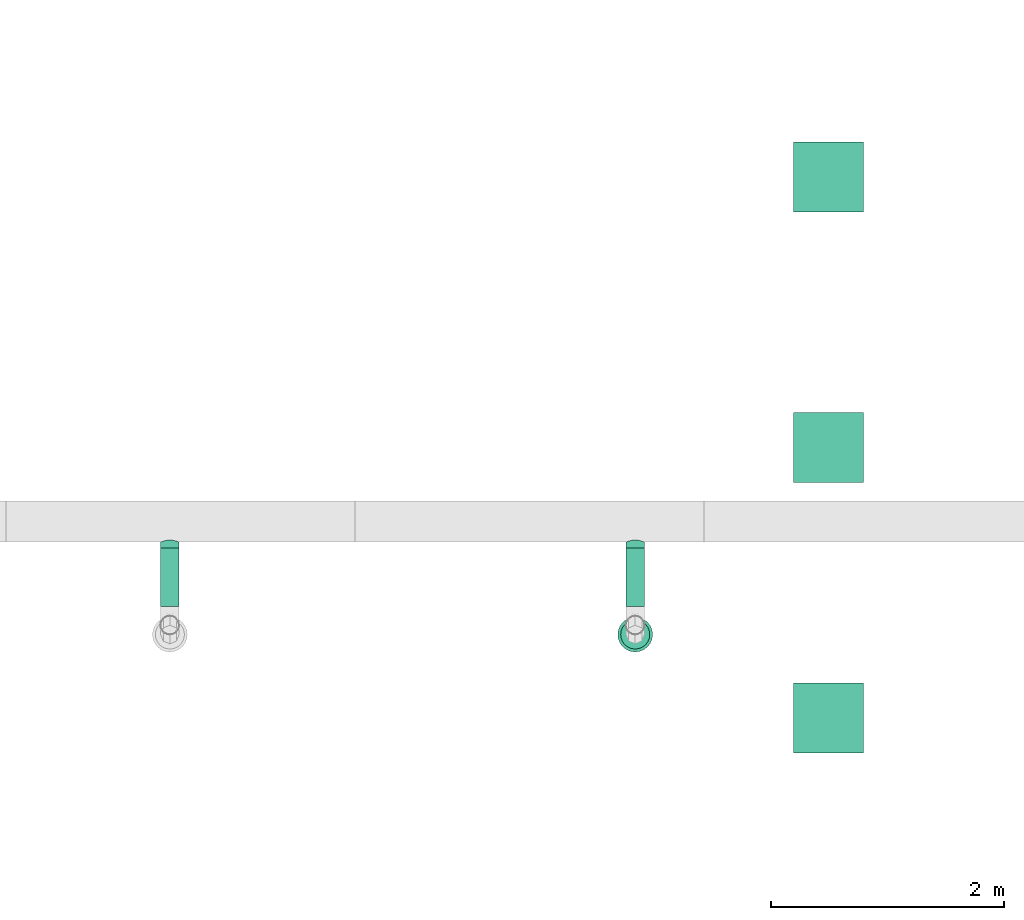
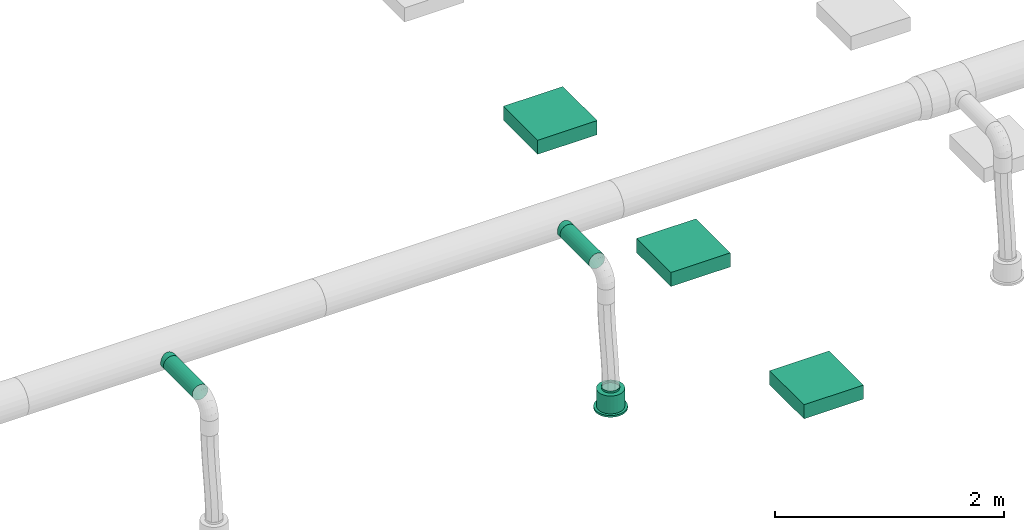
# One storey, part 57 of 374: 4 flow segments, 3 distribution elements, 1 flow terminal.
"""IFC2X3 building model written with IfcOpenShell, lengths in metres."""

import ifcopenshell
import ifcopenshell.guid

model = None  # the IFC model being written
_history = None  # IfcOwnerHistory: only IFC2X3 demands one
_inside = {}  # id of a spatial element -> (the spatial element, [elements in it])
_under = {}  # id of a project, library or spatial element -> (it, [spatial elements below it])
_declared = {}  # id of a project -> (the project, [libraries it declares])
_typed = {}  # id of a type object -> (the type object, [elements of that type])
_made_of = {}  # id of a material, layer set ... -> (it, [elements and type objects made of it])


def new_model(schema):
    """Start an empty IFC model of exactly this schema.

    Asked for "IFC4X3", IfcOpenShell would pick the latest addendum, in which some entities
    have other attributes; the version numbers below select the first issue.
    IFC2X3 requires an IfcOwnerHistory on every rooted entity: one is made here for all.
    """
    global model, _history
    if schema == "IFC4X3":
        model = ifcopenshell.file(schema_version=(4, 3, 0, 0))
    else:
        model = ifcopenshell.file(schema=schema)
    _inside.clear()
    _under.clear()
    _declared.clear()
    _typed.clear()
    _made_of.clear()
    _history = None
    if model.schema == "IFC2X3":
        org = make("IfcOrganization", Name="unknown")
        user = make(
            "IfcPersonAndOrganization",
            ThePerson=make("IfcPerson", FamilyName="unknown"),
            TheOrganization=org,
        )
        app = make(
            "IfcApplication",
            ApplicationDeveloper=org,
            Version="unknown",
            ApplicationFullName="unknown",
            ApplicationIdentifier="unknown",
        )
        _history = make(
            "IfcOwnerHistory",
            OwningUser=user,
            OwningApplication=app,
            ChangeAction="ADDED",
            CreationDate=0,
        )
    return model


def make(cls, **values):
    """One entity of the class cls with the attributes given. An attribute that is None is left unset."""
    return model.create_entity(
        cls, **{name: value for name, value in values.items() if value is not None}
    )


def rooted(cls, **values):
    """An entity with a GlobalId (a new one), such as an element, a storey or a relation."""
    return make(cls, GlobalId=ifcopenshell.guid.new(), OwnerHistory=_history, **values)


def si_unit(unit_type, name, prefix=None):
    """IfcSIUnit, for example si_unit("LENGTHUNIT", "METRE", prefix="MILLI")."""
    return make("IfcSIUnit", UnitType=unit_type, Prefix=prefix, Name=name)


def assignment(units):
    """IfcUnitAssignment: the units of a project."""
    return None if units is None else make("IfcUnitAssignment", Units=units)


def point(xyz):
    """IfcCartesianPoint."""
    return None if xyz is None else make("IfcCartesianPoint", Coordinates=xyz)


def direction(xyz):
    """IfcDirection."""
    return None if xyz is None else make("IfcDirection", DirectionRatios=xyz)


def frame(location, z_axis=None, x_axis=None):
    """IfcAxis2Placement3D, a coordinate frame: its origin and axes. An axis left out is left unset."""
    return make(
        "IfcAxis2Placement3D",
        Location=point(location),
        Axis=direction(z_axis),
        RefDirection=direction(x_axis),
    )


def frame_2d(location, x_axis=None):
    """IfcAxis2Placement2D, a coordinate frame in the plane: its origin and x axis."""
    return make(
        "IfcAxis2Placement2D", Location=point(location), RefDirection=direction(x_axis)
    )


def origin():
    """The frame at (0, 0, 0) with its axes left unset."""
    return frame((0.0, 0.0, 0.0))


def place(relative_to, where):
    """IfcLocalPlacement: puts the frame where relative to a parent placement (None: the world)."""
    return make(
        "IfcLocalPlacement", PlacementRelTo=relative_to, RelativePlacement=where
    )


def context(
    kind, dimensions, precision=None, world=None, true_north=None, identifier=None
):
    """IfcGeometricRepresentationContext, for example the 3D "Model" context."""
    return make(
        "IfcGeometricRepresentationContext",
        ContextIdentifier=identifier,
        ContextType=kind,
        CoordinateSpaceDimension=dimensions,
        Precision=precision,
        WorldCoordinateSystem=world,
        TrueNorth=true_north,
    )


def subcontext(parent, identifier, kind, view, scale=None):
    """IfcGeometricRepresentationSubContext, for example "Body" below "Model"."""
    return make(
        "IfcGeometricRepresentationSubContext",
        ContextIdentifier=identifier,
        ContextType=kind,
        ParentContext=parent,
        TargetScale=scale,
        TargetView=view,
    )


def project(units=None, contexts=None):
    """IfcProject with its units and contexts."""
    return rooted(
        "IfcProject",
        Name="project",
        RepresentationContexts=contexts,
        UnitsInContext=assignment(units),
    )


def spatial(cls, under=None, at=None, **own):
    """A site, building, storey or space (cls), placed at a placement, below another one or the project."""
    s = rooted(cls, ObjectPlacement=at, **own)
    if under is not None:
        _under.setdefault(under.id(), (under, []))[1].append(s)
    return s


def profile(cls, at=None, kind="AREA", **sizes):
    """A parametric profile (cls). Its sizes go by their IFC names, for example OverallWidth=200.0."""
    return make(cls, ProfileType=kind, Position=at, **sizes)


def rectangle(**sizes):
    """IfcRectangleProfileDef."""
    return profile("IfcRectangleProfileDef", **sizes)


def extrude(swept, where, along, depth):
    """IfcExtrudedAreaSolid: the profile swept, set in the frame where, extruded along a direction by depth."""
    return make(
        "IfcExtrudedAreaSolid",
        SweptArea=swept,
        Position=where,
        ExtrudedDirection=direction(along),
        Depth=depth,
    )


def faces_of(points, faces, orient=None, outer=None):
    """IfcFace entities. A face is a list of loops; a loop is a list of indices into points, from 0.

    orient and outer hold one flag for each loop. By default every Orientation is true, the
    first loop of a face is its IfcFaceOuterBound and the others are IfcFaceBound.
    """
    made = []
    for i, loops in enumerate(faces):
        bounds = []
        for j, loop in enumerate(loops):
            is_outer = j == 0 if outer is None else outer[i][j]
            bounds.append(
                make(
                    "IfcFaceOuterBound" if is_outer else "IfcFaceBound",
                    Bound=make("IfcPolyLoop", Polygon=[points[k] for k in loop]),
                    Orientation=True if orient is None else orient[i][j],
                )
            )
        made.append(make("IfcFace", Bounds=bounds))
    return made


def open_shell(faces, orient=None, outer=None):
    """The faces of one IfcOpenShell. surface_model builds it on its shared points."""
    return ("IfcOpenShell", faces, orient, outer)


def surface_model(cls, points, shells):
    """IfcFaceBasedSurfaceModel or IfcShellBasedSurfaceModel (cls): surfaces that need not close."""
    shared = [point(p) for p in points]
    made = [make(c, CfsFaces=faces_of(shared, fs, o, b)) for c, fs, o, b in shells]
    if cls == "IfcFaceBasedSurfaceModel":
        return make(cls, FbsmFaces=made)
    return make(cls, SbsmBoundary=made)


def shape(context_of_items, identifier, shape_type, items):
    """IfcShapeRepresentation: the items that make up one representation, for example the "Body"."""
    return make(
        "IfcShapeRepresentation",
        ContextOfItems=context_of_items,
        RepresentationIdentifier=identifier,
        RepresentationType=shape_type,
        Items=items,
    )


def source(mapping_origin, context_of_items, identifier, shape_type, items):
    """IfcRepresentationMap: a shape defined once, which mapped items show again and again."""
    return make(
        "IfcRepresentationMap",
        MappingOrigin=mapping_origin,
        MappedRepresentation=shape(context_of_items, identifier, shape_type, items),
    )


def transform(
    local_origin,
    x_axis=None,
    y_axis=None,
    z_axis=None,
    scale=None,
    scale2=None,
    scale3=None,
    uniform=True,
):
    """IfcCartesianTransformationOperator3D, or its non-uniform kind. x_axis, y_axis, z_axis: its Axis1, 2, 3."""
    if uniform:
        return make(
            "IfcCartesianTransformationOperator3D",
            Axis1=direction(x_axis),
            Axis2=direction(y_axis),
            LocalOrigin=point(local_origin),
            Scale=scale,
            Axis3=direction(z_axis),
        )
    return make(
        "IfcCartesianTransformationOperator3DnonUniform",
        Axis1=direction(x_axis),
        Axis2=direction(y_axis),
        LocalOrigin=point(local_origin),
        Scale=scale,
        Axis3=direction(z_axis),
        Scale2=scale2,
        Scale3=scale3,
    )


def mapped(mapping_source, mapping_target):
    """IfcMappedItem: shows the shape of a source again, moved by a transform."""
    return make(
        "IfcMappedItem", MappingSource=mapping_source, MappingTarget=mapping_target
    )


def made_of(thing, what):
    """Note that an element or type object is made of a material, layer set ...; save() writes the relation."""
    if what is not None:
        _made_of.setdefault(what.id(), (what, []))[1].append(thing)
    return thing


def element(
    cls,
    number,
    at=None,
    inside=None,
    cuts=None,
    type_object=None,
    material=None,
    context=None,
    identifier="Body",
    shape_type=None,
    held_by="IfcProductDefinitionShape",
    body=None,
    shapes=None,
    **own,
):
    """One element of the class cls, such as IfcWall. Its Tag is "e" and its number.

    at: its placement. inside: the storey or other place that contains it. cuts: it is an
    opening in that element (IfcRelVoidsElement). A single representation is given by context,
    identifier, shape_type and body (its items); several are given by shapes. held_by: the class
    of the entity that holds the representations. save() writes the other relations.
    """
    e = rooted(cls, Tag="e%d" % number, ObjectPlacement=at, **own)
    if body is not None:
        shapes = [shape(context, identifier, shape_type, body)]
    if shapes is not None:
        e.Representation = make(held_by, Representations=shapes)
    if inside is not None:
        _inside.setdefault(inside.id(), (inside, []))[1].append(e)
    if cuts is not None:
        rooted(
            "IfcRelVoidsElement", RelatingBuildingElement=cuts, RelatedOpeningElement=e
        )
    if type_object is not None:
        _typed.setdefault(type_object.id(), (type_object, []))[1].append(e)
    return made_of(e, material)


def aggregate(whole, parts):
    """IfcRelAggregates: a whole, such as a stair, and the parts it consists of."""
    return rooted("IfcRelAggregates", RelatingObject=whole, RelatedObjects=parts)


def save(model, path):
    """Write the relations noted so far, then the file.

    IfcRelAggregates (storeys below a building ...), IfcRelContainedInSpatialStructure (elements
    in a storey), IfcRelDefinesByType, IfcRelAssociatesMaterial and IfcRelDeclares: one each for
    every whole, place, type object, material and project.
    """
    for whole, parts in _under.values():
        aggregate(whole, parts)
    for where, things in _inside.values():
        rooted(
            "IfcRelContainedInSpatialStructure",
            RelatedElements=things,
            RelatingStructure=where,
        )
    for kind, things in _typed.values():
        rooted("IfcRelDefinesByType", RelatedObjects=things, RelatingType=kind)
    for what, things in _made_of.values():
        rooted("IfcRelAssociatesMaterial", RelatedObjects=things, RelatingMaterial=what)
    for by, libraries in _declared.values():
        rooted("IfcRelDeclares", RelatingContext=by, RelatedDefinitions=libraries)
    model.write(path)


model = new_model("IFC2X3")

# Units and contexts
model_context = context("Model", 3, precision=1e-05, world=origin(), true_north=direction((-0.4480736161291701, 0.8939966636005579)))
body_context = subcontext(model_context, "Body", "Model", "MODEL_VIEW")
ifc_project = project(units=[si_unit("LENGTHUNIT", "METRE"), si_unit("AREAUNIT", "SQUARE_METRE"), si_unit("VOLUMEUNIT", "CUBIC_METRE"), si_unit("PLANEANGLEUNIT", "RADIAN"), si_unit("THERMODYNAMICTEMPERATUREUNIT", "KELVIN"), si_unit("MASSUNIT", "GRAM", prefix="KILO"), si_unit("TIMEUNIT", "SECOND")], contexts=[model_context])

# Site, building, storey
site_placement = place(None, origin())
site = spatial("IfcSite", under=ifc_project, at=site_placement, Name="Site 1", CompositionType="ELEMENT")
building_placement = place(site_placement, origin())
building = spatial("IfcBuilding", under=site, at=building_placement, Name="Undefined", CompositionType="ELEMENT")
storey_placement = place(building_placement, origin())
storey = spatial("IfcBuildingStorey", under=building, at=storey_placement, Name="Rez de chauss\x8ee", CompositionType="ELEMENT", Elevation=0.0)

# Flow terminal
shared_shape_1 = source(origin(), body_context, "Body", "SurfaceModel", [
    surface_model("IfcFaceBasedSurfaceModel", [(0.0, 0.0, 0.0), (0.03915785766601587, 0.0, 0.0), (0.03915785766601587, 0.020000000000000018, 0.0), (3.552713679e-15, 0.020000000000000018, 0.0), (0.07698144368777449, 0.0, -0.010134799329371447), (0.07698144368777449, 0.020000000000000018, -0.010134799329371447), (0.11089314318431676, 0.0, -0.02971372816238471), (0.11089314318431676, 0.020000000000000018, -0.02971372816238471), (0.13858192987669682, 0.0, -0.05740251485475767), (0.13858192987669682, 0.020000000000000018, -0.05740251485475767), (0.15816085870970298, 0.0, -0.09131421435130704), (0.15816085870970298, 0.020000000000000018, -0.09131421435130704), (0.16829565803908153, 0.0, -0.12913780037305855), (0.16829565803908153, 0.020000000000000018, -0.12913780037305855), (0.16829565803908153, 0.0, -0.16829565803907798), (0.16829565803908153, 0.020000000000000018, -0.16829565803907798), (0.15816085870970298, 0.0, -0.20611924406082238), (0.15816085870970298, 0.020000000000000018, -0.20611924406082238), (0.13858192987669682, 0.0, -0.24003094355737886), (0.13858192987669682, 0.020000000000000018, -0.24003094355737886), (0.11089314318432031, 0.0, -0.2677197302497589), (0.11089314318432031, 0.020000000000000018, -0.2677197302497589), (0.07698144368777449, 0.0, -0.2872986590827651), (0.07698144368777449, 0.020000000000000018, -0.2872986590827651), (0.039157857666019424, 0.0, -0.29743345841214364), (0.039157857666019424, 0.020000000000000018, -0.29743345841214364), (3.552713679e-15, 0.0, -0.29743345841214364), (3.552713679e-15, 0.020000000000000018, -0.29743345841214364), (-0.03782358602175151, 0.0, -0.2872986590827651), (-0.03782358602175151, 0.020000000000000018, -0.2872986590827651), (-0.07173528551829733, 0.0, -0.2677197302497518), (-0.07173528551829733, 0.020000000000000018, -0.2677197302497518), (-0.0994240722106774, 0.0, -0.24003094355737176), (-0.0994240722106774, 0.020000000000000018, -0.24003094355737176), (-0.11900300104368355, 0.0, -0.2061192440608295), (-0.11900300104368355, 0.020000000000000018, -0.2061192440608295), (-0.1291378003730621, 0.0, -0.16829565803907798), (-0.1291378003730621, 0.020000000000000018, -0.16829565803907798), (-0.1291378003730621, 0.0, -0.12913780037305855), (-0.1291378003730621, 0.020000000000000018, -0.12913780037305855), (-0.11900300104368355, 0.0, -0.09131421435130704), (-0.11900300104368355, 0.020000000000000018, -0.09131421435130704), (-0.0994240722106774, 0.0, -0.05740251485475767), (-0.0994240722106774, 0.020000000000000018, -0.05740251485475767), (-0.07173528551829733, 0.0, -0.029713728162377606), (-0.07173528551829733, 0.020000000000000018, -0.029713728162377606), (-0.03782358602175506, 0.0, -0.010134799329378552), (-0.03782358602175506, 0.020000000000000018, -0.010134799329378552), (0.019578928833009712, 0.0, -0.14871672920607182), (0.019578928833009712, 0.020000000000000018, -0.14871672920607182), (0.003263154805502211, 0.020000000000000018, -0.02478612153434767), (0.035894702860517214, 0.020000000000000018, -0.02478612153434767), (0.035894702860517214, 0.20999999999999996, -0.02478612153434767), (0.003263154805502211, 0.20999999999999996, -0.02478612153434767), (0.06741435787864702, 0.020000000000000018, -0.033231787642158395), (0.06741435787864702, 0.20999999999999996, -0.033231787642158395), (0.0956741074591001, 0.020000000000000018, -0.04954756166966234), (0.0956741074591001, 0.20999999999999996, -0.04954756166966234), (0.11874809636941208, 0.020000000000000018, -0.07262155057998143), (0.11874809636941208, 0.20999999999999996, -0.07262155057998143), (0.13506387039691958, 0.020000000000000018, -0.10088130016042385), (0.13506387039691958, 0.20999999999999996, -0.10088130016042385), (0.1435095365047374, 0.020000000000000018, -0.13240095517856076), (0.1435095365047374, 0.20999999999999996, -0.13240095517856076), (0.1435095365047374, 0.020000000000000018, -0.16503250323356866), (0.1435095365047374, 0.20999999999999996, -0.16503250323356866), (0.13506387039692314, 0.020000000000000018, -0.19655215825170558), (0.13506387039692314, 0.20999999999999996, -0.19655215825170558), (0.11874809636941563, 0.020000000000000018, -0.2248119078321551), (0.11874809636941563, 0.20999999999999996, -0.2248119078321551), (0.09567410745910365, 0.020000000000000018, -0.24788589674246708), (0.09567410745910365, 0.20999999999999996, -0.24788589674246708), (0.06741435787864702, 0.020000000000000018, -0.26420167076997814), (0.06741435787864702, 0.20999999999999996, -0.26420167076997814), (0.035894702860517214, 0.020000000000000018, -0.27264733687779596), (0.035894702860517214, 0.20999999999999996, -0.27264733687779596), (0.0032631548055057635, 0.020000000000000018, -0.27264733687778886), (0.0032631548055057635, 0.20999999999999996, -0.27264733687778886), (-0.028256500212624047, 0.020000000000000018, -0.26420167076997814), (-0.028256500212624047, 0.20999999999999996, -0.26420167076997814), (-0.05651624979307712, 0.020000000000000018, -0.2478858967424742), (-0.05651624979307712, 0.20999999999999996, -0.2478858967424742), (-0.07959023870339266, 0.020000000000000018, -0.2248119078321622), (-0.07959023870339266, 0.20999999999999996, -0.2248119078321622), (-0.09590601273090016, 0.020000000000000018, -0.19655215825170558), (-0.09590601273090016, 0.20999999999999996, -0.19655215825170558), (-0.10435167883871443, 0.020000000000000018, -0.16503250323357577), (-0.10435167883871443, 0.20999999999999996, -0.16503250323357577), (-0.10435167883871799, 0.020000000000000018, -0.13240095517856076), (-0.10435167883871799, 0.20999999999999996, -0.13240095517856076), (-0.09590601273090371, 0.020000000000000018, -0.10088130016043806), (-0.09590601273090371, 0.20999999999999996, -0.10088130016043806), (-0.07959023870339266, 0.020000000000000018, -0.07262155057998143), (-0.07959023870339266, 0.20999999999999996, -0.07262155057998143), (-0.056516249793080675, 0.020000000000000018, -0.04954756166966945), (-0.056516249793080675, 0.20999999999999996, -0.04954756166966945), (-0.028256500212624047, 0.020000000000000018, -0.033231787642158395), (-0.028256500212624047, 0.20999999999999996, -0.033231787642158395), (0.019578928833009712, 0.20999999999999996, -0.14871672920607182), (0.009136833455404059, 0.20999999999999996, -0.06940114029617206), (0.030021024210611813, 0.20999999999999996, -0.06940114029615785), (0.030021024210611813, 0.22999999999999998, -0.06940114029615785), (0.009136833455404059, 0.22999999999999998, -0.06940114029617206), (0.05019360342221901, 0.20999999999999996, -0.07480636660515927), (0.05019360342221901, 0.22999999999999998, -0.07480636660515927), (0.06827984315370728, 0.20999999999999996, -0.08524846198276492), (0.06827984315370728, 0.22999999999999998, -0.08524846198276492), (0.0830471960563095, 0.20999999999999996, -0.10001581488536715), (0.0830471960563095, 0.22999999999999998, -0.10001581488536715), (0.0934892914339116, 0.20999999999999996, -0.11810205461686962), (0.0934892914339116, 0.22999999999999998, -0.11810205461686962), (0.09889451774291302, 0.20999999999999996, -0.13827463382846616), (0.09889451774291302, 0.22999999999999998, -0.13827463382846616), (0.09889451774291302, 0.20999999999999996, -0.15915882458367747), (0.09889451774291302, 0.22999999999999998, -0.15915882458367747), (0.09348929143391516, 0.20999999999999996, -0.179331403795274), (0.09348929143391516, 0.22999999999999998, -0.179331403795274), (0.0830471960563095, 0.20999999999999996, -0.19741764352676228), (0.0830471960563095, 0.22999999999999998, -0.19741764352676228), (0.06827984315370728, 0.20999999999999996, -0.2121849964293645), (0.06827984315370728, 0.22999999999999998, -0.2121849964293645), (0.05019360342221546, 0.20999999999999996, -0.22262709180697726), (0.05019360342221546, 0.22999999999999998, -0.22262709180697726), (0.030021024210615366, 0.20999999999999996, -0.22803231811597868), (0.030021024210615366, 0.22999999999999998, -0.22803231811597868), (0.009136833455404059, 0.20999999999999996, -0.22803231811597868), (0.009136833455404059, 0.22999999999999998, -0.22803231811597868), (-0.011035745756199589, 0.20999999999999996, -0.22262709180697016), (-0.011035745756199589, 0.22999999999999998, -0.22262709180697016), (-0.0291219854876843, 0.20999999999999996, -0.2121849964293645), (-0.0291219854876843, 0.22999999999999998, -0.2121849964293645), (-0.043889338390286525, 0.20999999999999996, -0.19741764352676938), (-0.043889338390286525, 0.22999999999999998, -0.19741764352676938), (-0.05433143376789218, 0.20999999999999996, -0.17933140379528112), (-0.05433143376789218, 0.22999999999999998, -0.17933140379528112), (-0.05973666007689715, 0.20999999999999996, -0.15915882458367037), (-0.05973666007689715, 0.22999999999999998, -0.15915882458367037), (-0.0597366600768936, 0.20999999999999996, -0.13827463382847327), (-0.0597366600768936, 0.22999999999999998, -0.13827463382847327), (-0.05433143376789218, 0.20999999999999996, -0.11810205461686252), (-0.05433143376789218, 0.22999999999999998, -0.11810205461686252), (-0.043889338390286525, 0.20999999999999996, -0.10001581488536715), (-0.043889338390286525, 0.22999999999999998, -0.10001581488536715), (-0.02912198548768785, 0.20999999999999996, -0.08524846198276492), (-0.02912198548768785, 0.22999999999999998, -0.08524846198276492), (-0.011035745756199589, 0.20999999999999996, -0.07480636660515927), (-0.011035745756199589, 0.22999999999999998, -0.07480636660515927)], [open_shell([[[0, 1, 2, 3]], [[1, 4, 5, 2]], [[4, 6, 7, 5]], [[6, 8, 9, 7]], [[8, 10, 11, 9]], [[10, 12, 13, 11]], [[12, 14, 15, 13]], [[14, 16, 17, 15]], [[16, 18, 19, 17]], [[18, 20, 21, 19]], [[20, 22, 23, 21]], [[22, 24, 25, 23]], [[24, 26, 27, 25]], [[26, 28, 29, 27]], [[28, 30, 31, 29]], [[30, 32, 33, 31]], [[32, 34, 35, 33]], [[34, 36, 37, 35]], [[36, 38, 39, 37]], [[38, 40, 41, 39]], [[40, 42, 43, 41]], [[42, 44, 45, 43]], [[44, 46, 47, 45]], [[46, 0, 3, 47]], [[48, 1, 0]], [[48, 4, 1]], [[48, 6, 4]], [[48, 8, 6]], [[48, 10, 8]], [[48, 12, 10]], [[48, 14, 12]], [[48, 16, 14]], [[48, 18, 16]], [[48, 20, 18]], [[48, 22, 20]], [[48, 24, 22]], [[48, 26, 24]], [[48, 28, 26]], [[48, 30, 28]], [[48, 32, 30]], [[48, 34, 32]], [[48, 36, 34]], [[48, 38, 36]], [[48, 40, 38]], [[48, 42, 40]], [[48, 44, 42]], [[48, 46, 44]], [[48, 0, 46]], [[49, 47, 3]], [[49, 45, 47]], [[49, 43, 45]], [[49, 41, 43]], [[49, 39, 41]], [[49, 37, 39]], [[49, 35, 37]], [[49, 33, 35]], [[49, 31, 33]], [[49, 29, 31]], [[49, 27, 29]], [[49, 25, 27]], [[49, 23, 25]], [[49, 21, 23]], [[49, 19, 21]], [[49, 17, 19]], [[49, 15, 17]], [[49, 13, 15]], [[49, 11, 13]], [[49, 9, 11]], [[49, 7, 9]], [[49, 5, 7]], [[49, 2, 5]], [[49, 3, 2]], [[50, 51, 52, 53]], [[51, 54, 55, 52]], [[54, 56, 57, 55]], [[56, 58, 59, 57]], [[58, 60, 61, 59]], [[60, 62, 63, 61]], [[62, 64, 65, 63]], [[64, 66, 67, 65]], [[66, 68, 69, 67]], [[68, 70, 71, 69]], [[70, 72, 73, 71]], [[72, 74, 75, 73]], [[74, 76, 77, 75]], [[76, 78, 79, 77]], [[78, 80, 81, 79]], [[80, 82, 83, 81]], [[82, 84, 85, 83]], [[84, 86, 87, 85]], [[86, 88, 89, 87]], [[88, 90, 91, 89]], [[90, 92, 93, 91]], [[92, 94, 95, 93]], [[94, 96, 97, 95]], [[96, 50, 53, 97]], [[49, 51, 50]], [[49, 54, 51]], [[49, 56, 54]], [[49, 58, 56]], [[49, 60, 58]], [[49, 62, 60]], [[49, 64, 62]], [[49, 66, 64]], [[49, 68, 66]], [[49, 70, 68]], [[49, 72, 70]], [[49, 74, 72]], [[49, 76, 74]], [[49, 78, 76]], [[49, 80, 78]], [[49, 82, 80]], [[49, 84, 82]], [[49, 86, 84]], [[49, 88, 86]], [[49, 90, 88]], [[49, 92, 90]], [[49, 94, 92]], [[49, 96, 94]], [[49, 50, 96]], [[98, 97, 53]], [[98, 95, 97]], [[98, 93, 95]], [[98, 91, 93]], [[98, 89, 91]], [[98, 87, 89]], [[98, 85, 87]], [[98, 83, 85]], [[98, 81, 83]], [[98, 79, 81]], [[98, 77, 79]], [[98, 75, 77]], [[98, 73, 75]], [[98, 71, 73]], [[98, 69, 71]], [[98, 67, 69]], [[98, 65, 67]], [[98, 63, 65]], [[98, 61, 63]], [[98, 59, 61]], [[98, 57, 59]], [[98, 55, 57]], [[98, 52, 55]], [[98, 53, 52]], [[99, 100, 101, 102]], [[100, 103, 104, 101]], [[103, 105, 106, 104]], [[105, 107, 108, 106]], [[107, 109, 110, 108]], [[109, 111, 112, 110]], [[111, 113, 114, 112]], [[113, 115, 116, 114]], [[115, 117, 118, 116]], [[117, 119, 120, 118]], [[119, 121, 122, 120]], [[121, 123, 124, 122]], [[123, 125, 126, 124]], [[125, 127, 128, 126]], [[127, 129, 130, 128]], [[129, 131, 132, 130]], [[131, 133, 134, 132]], [[133, 135, 136, 134]], [[135, 137, 138, 136]], [[137, 139, 140, 138]], [[139, 141, 142, 140]], [[141, 143, 144, 142]], [[143, 145, 146, 144]], [[145, 99, 102, 146]]])]),
])
flow_terminal_placement = place(storey_placement, origin())
element("IfcFlowTerminal", 1, at=flow_terminal_placement, inside=storey, Name="Air diffuseur - bouche", ObjectType="Air diffuseur - bouche", context=body_context, shape_type="MappedRepresentation", body=[
    mapped(shared_shape_1, transform((34.290000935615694, 2.0299997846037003, 2.38), x_axis=(-0.9914448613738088, -0.13052619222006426, 0.0), y_axis=(0.0, 0.0, 1.0), z_axis=(-0.13052619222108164, 0.9914448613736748, 0.0))),
])

# Flow segments
shared_shape_2 = source(origin(), body_context, "Body", "SurfaceModel", [
    surface_model("IfcFaceBasedSurfaceModel", [(0.0, 0.020884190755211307, 0.0), (0.0, 0.0, 0.0), (0.5037979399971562, 0.0, 0.0), (0.5037979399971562, 0.0208841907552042, 0.0), (0.0, -0.020172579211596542, -0.005405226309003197), (0.5037979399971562, -0.020172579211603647, -0.005405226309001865), (0.0, -0.03825881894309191, -0.015847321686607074), (0.5037979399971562, -0.03825881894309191, -0.015847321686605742), (0.0, -0.05302617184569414, -0.0306146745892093), (0.5037979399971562, -0.05302617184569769, -0.030614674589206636), (0.0, -0.06346826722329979, -0.04870091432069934), (0.5037979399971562, -0.06346826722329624, -0.04870091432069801), (0.0, -0.06887349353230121, -0.06887349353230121), (0.5037979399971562, -0.06887349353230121, -0.06887349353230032), (0.0, -0.06887349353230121, -0.08975768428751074), (0.5037979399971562, -0.06887349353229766, -0.08975768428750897), (0.0, -0.06346826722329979, -0.10993026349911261), (0.5037979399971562, -0.06346826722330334, -0.10993026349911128), (0.0, -0.05302617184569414, -0.12801650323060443), (0.5037979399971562, -0.05302617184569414, -0.1280165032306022), (0.0, -0.038258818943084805, -0.14278385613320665), (0.5037979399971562, -0.03825881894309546, -0.1427838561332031), (0.0, -0.020172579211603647, -0.15322595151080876), (0.5037979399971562, -0.020172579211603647, -0.15322595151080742), (0.0, 7.105427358e-15, -0.15863117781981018), (0.5037979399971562, -3.552713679e-15, -0.1586311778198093), (0.0, 0.020884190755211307, -0.15863117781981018), (0.5037979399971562, 0.020884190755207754, -0.1586311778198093), (0.0, 0.04105676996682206, -0.15322595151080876), (0.5037979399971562, 0.04105676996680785, -0.15322595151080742), (0.0, 0.05914300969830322, -0.1427838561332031), (0.5037979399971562, 0.05914300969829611, -0.14278385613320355), (0.0, 0.07391036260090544, -0.12801650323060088), (0.5037979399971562, 0.07391036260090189, -0.1280165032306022), (0.0, 0.0843524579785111, -0.10993026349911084), (0.5037979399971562, 0.08435245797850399, -0.10993026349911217), (0.0, 0.08975768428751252, -0.08975768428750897), (0.5037979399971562, 0.08975768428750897, -0.08975768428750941), (0.0, 0.08975768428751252, -0.06887349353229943), (0.5037979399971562, 0.08975768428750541, -0.06887349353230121), (0.0, 0.0843524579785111, -0.048700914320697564), (0.5037979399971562, 0.08435245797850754, -0.048700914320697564), (0.0, 0.07391036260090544, -0.030614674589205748), (0.5037979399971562, 0.07391036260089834, -0.03061467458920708), (0.0, 0.05914300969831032, -0.015847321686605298), (0.5037979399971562, 0.059143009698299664, -0.015847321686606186), (0.0, 0.04105676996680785, -0.005405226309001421), (0.5037979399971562, 0.0410567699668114, -0.005405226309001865)], [open_shell([[[0, 1, 2, 3]], [[1, 4, 5, 2]], [[4, 6, 7, 5]], [[6, 8, 9, 7]], [[8, 10, 11, 9]], [[10, 12, 13, 11]], [[12, 14, 15, 13]], [[14, 16, 17, 15]], [[16, 18, 19, 17]], [[18, 20, 21, 19]], [[20, 22, 23, 21]], [[22, 24, 25, 23]], [[24, 26, 27, 25]], [[26, 28, 29, 27]], [[28, 30, 31, 29]], [[30, 32, 33, 31]], [[32, 34, 35, 33]], [[34, 36, 37, 35]], [[36, 38, 39, 37]], [[38, 40, 41, 39]], [[40, 42, 43, 41]], [[42, 44, 45, 43]], [[44, 46, 47, 45]], [[46, 0, 3, 47]]])]),
])
flow_segment_1_placement = place(storey_placement, origin())
element("IfcFlowSegment", 2, at=flow_segment_1_placement, inside=storey, Name="Tube", ObjectType="Tube", context=body_context, shape_type="MappedRepresentation", body=[
    mapped(shared_shape_2, transform((34.269295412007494, 2.623797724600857, 3.877274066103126), x_axis=(0.0, -1.0, 0.0), y_axis=(0.9914448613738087, 0.0, 0.13052619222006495), z_axis=(-0.13052619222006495, 0.0, 0.9914448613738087))),
])
flow_segment_2_placement = place(storey_placement, origin())
element("IfcFlowSegment", 3, at=flow_segment_2_placement, inside=storey, Name="Tube", ObjectType="Tube", context=body_context, shape_type="MappedRepresentation", body=[
    mapped(shared_shape_2, transform((30.269295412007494, 2.623797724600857, 3.877274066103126), x_axis=(0.0, -1.0, 0.0), y_axis=(0.9914448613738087, 0.0, 0.13052619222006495), z_axis=(-0.13052619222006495, 0.0, 0.9914448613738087))),
])
shared_shape_3 = source(origin(), body_context, "Body", "SurfaceModel", [
    surface_model("IfcFaceBasedSurfaceModel", [(0.0012117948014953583, 0.0208841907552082, 0.0), (0.0, 0.0, 0.0), (0.05121179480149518, 4.4408921e-16, 7.105427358e-15), (0.05121179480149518, 0.0208841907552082, 0.0), (-0.0033539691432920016, -0.02017257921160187, -0.005405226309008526), (0.05121179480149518, -0.02017257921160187, -0.005405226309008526), (-0.008043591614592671, -0.03825881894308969, -0.01584732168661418), (0.05121179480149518, -0.03825881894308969, -0.01584732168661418), (-0.012867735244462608, -0.05302617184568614, -0.03061467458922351), (0.05121179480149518, -0.05302617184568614, -0.03061467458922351), (-0.01649155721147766, -0.06346826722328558, -0.04870091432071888), (0.05121179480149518, -0.06346826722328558, -0.04870091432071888), (-0.017838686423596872, -0.06887349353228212, -0.06887349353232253), (0.05121179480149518, -0.06887349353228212, -0.06887349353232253), (-0.01649155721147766, -0.06887349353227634, -0.08975768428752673), (0.05121179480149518, -0.06887349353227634, -0.08975768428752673), (-0.012867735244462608, -0.06346826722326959, -0.10993026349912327), (0.05121179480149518, -0.06346826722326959, -0.10993026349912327), (-0.008043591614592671, -0.05302617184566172, -0.12801650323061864), (0.05121179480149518, -0.05302617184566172, -0.12801650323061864), (-0.0033539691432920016, -0.03825881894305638, -0.14278385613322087), (0.05121179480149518, -0.03825881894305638, -0.14278385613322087), (0.0, -0.020172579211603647, -0.15322595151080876), (0.05121179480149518, -0.020172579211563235, -0.1532259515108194), (0.0012117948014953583, 4.2188474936e-14, -0.15863117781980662), (0.05121179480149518, 4.2188474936e-14, -0.15863117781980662), (0.0, 0.020884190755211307, -0.15863117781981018), (0.05121179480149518, 0.020884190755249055, -0.15863117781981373), (-0.0033539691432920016, 0.04105676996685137, -0.1532259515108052), (0.05121179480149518, 0.04105676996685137, -0.1532259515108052), (-0.008043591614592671, 0.059143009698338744, -0.14278385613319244), (0.05121179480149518, 0.059143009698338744, -0.14278385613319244), (-0.012867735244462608, 0.07391036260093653, -0.128016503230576), (0.05121179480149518, 0.07391036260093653, -0.128016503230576), (-0.01649155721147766, 0.08435245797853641, -0.10993026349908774), (0.05121179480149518, 0.08435245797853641, -0.10993026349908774), (-0.017838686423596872, 0.0897576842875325, -0.0897576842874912), (0.05121179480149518, 0.0897576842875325, -0.0897576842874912), (-0.01649155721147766, 0.08975768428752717, -0.0688734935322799), (0.05121179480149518, 0.08975768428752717, -0.0688734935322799), (-0.012867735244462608, 0.08435245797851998, -0.04870091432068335), (0.05121179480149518, 0.08435245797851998, -0.04870091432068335), (-0.008043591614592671, 0.07391036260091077, -0.030614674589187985), (0.05121179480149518, 0.07391036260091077, -0.030614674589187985), (-0.0033539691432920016, 0.05914300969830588, -0.015847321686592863), (0.05121179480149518, 0.05914300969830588, -0.015847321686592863), (0.0, 0.04105676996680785, -0.005405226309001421), (0.05121179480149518, 0.04105676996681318, -0.00540522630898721)], [open_shell([[[0, 1, 2, 3]], [[1, 4, 5, 2]], [[4, 6, 7, 5]], [[6, 8, 9, 7]], [[8, 10, 11, 9]], [[10, 12, 13, 11]], [[12, 14, 15, 13]], [[14, 16, 17, 15]], [[16, 18, 19, 17]], [[18, 20, 21, 19]], [[20, 22, 23, 21]], [[22, 24, 25, 23]], [[24, 26, 27, 25]], [[26, 28, 29, 27]], [[28, 30, 31, 29]], [[30, 32, 33, 31]], [[32, 34, 35, 33]], [[34, 36, 37, 35]], [[36, 38, 39, 37]], [[38, 40, 41, 39]], [[40, 42, 43, 41]], [[42, 44, 45, 43]], [[44, 46, 47, 45]], [[46, 0, 3, 47]]])]),
])
flow_segment_3_placement = place(storey_placement, origin())
element("IfcFlowSegment", 4, at=flow_segment_3_placement, inside=storey, Name="Piquage équerre circulaire", ObjectType="Piquage équerre circulaire", context=body_context, shape_type="MappedRepresentation", body=[
    mapped(shared_shape_3, transform((34.212726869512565, 2.675009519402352, 3.779294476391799), x_axis=(0.0, -1.0, 0.0), y_axis=(-0.13052619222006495, 0.0, 0.9914448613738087), z_axis=(-0.9914448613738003, 0.0, -0.13052619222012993))),
])
flow_segment_4_placement = place(storey_placement, origin())
element("IfcFlowSegment", 5, at=flow_segment_4_placement, inside=storey, Name="Piquage équerre circulaire", ObjectType="Piquage équerre circulaire", context=body_context, shape_type="MappedRepresentation", body=[
    mapped(shared_shape_3, transform((30.212726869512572, 2.675009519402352, 3.779294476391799), x_axis=(0.0, -1.0, 0.0), y_axis=(-0.13052619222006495, 0.0, 0.9914448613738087), z_axis=(-0.9914448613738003, 0.0, -0.13052619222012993))),
])

# Distribution elements
distribution_element_1_placement = place(storey_placement, origin())
element("IfcDistributionElement", 6, at=distribution_element_1_placement, inside=storey, Name="Decken-Rechteckleuchte mit Rahmen AP", ObjectType="Decken-Rechteckleuchte mit Rahmen AP", context=body_context, shape_type="SweptSolid", body=[
    extrude(rectangle(XDim=0.6000000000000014, YDim=0.6000000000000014, at=frame_2d((3.552713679e-15, 0.0), x_axis=(0.0, 1.0))), frame((35.95181062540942, 1.1625, 2.5500000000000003), z_axis=(0.0, 0.0, -1.0), x_axis=(1.0, 0.0, 0.0)), (0.0, 0.0, 1.0), 0.15),
])
distribution_element_2_placement = place(storey_placement, origin())
element("IfcDistributionElement", 7, at=distribution_element_2_placement, inside=storey, Name="Decken-Rechteckleuchte mit Rahmen AP", ObjectType="Decken-Rechteckleuchte mit Rahmen AP", context=body_context, shape_type="SweptSolid", body=[
    extrude(rectangle(XDim=0.6000000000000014, YDim=0.6000000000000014, at=frame_2d((3.552713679e-15, 0.0), x_axis=(0.0, 1.0))), frame((35.95181045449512, 5.8125, 2.5500000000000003), z_axis=(0.0, 0.0, -1.0), x_axis=(1.0, 0.0, 0.0)), (0.0, 0.0, 1.0), 0.15),
])
distribution_element_3_placement = place(storey_placement, origin())
element("IfcDistributionElement", 8, at=distribution_element_3_placement, inside=storey, Name="Decken-Rechteckleuchte mit Rahmen AP", ObjectType="Decken-Rechteckleuchte mit Rahmen AP", context=body_context, shape_type="SweptSolid", body=[
    extrude(rectangle(XDim=0.6000000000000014, YDim=0.6000000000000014, at=frame_2d((3.552713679e-15, 0.0), x_axis=(0.0, 1.0))), frame((35.95181062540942, 3.4875, 2.5500000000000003), z_axis=(0.0, 0.0, -1.0), x_axis=(1.0, 0.0, 0.0)), (0.0, 0.0, 1.0), 0.15),
])

save(model, "model.ifc")
